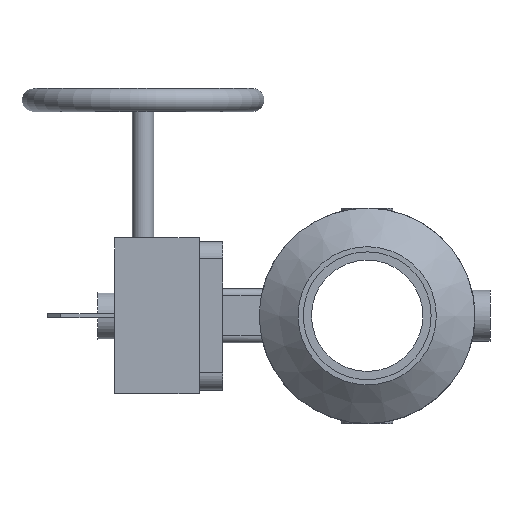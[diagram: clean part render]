
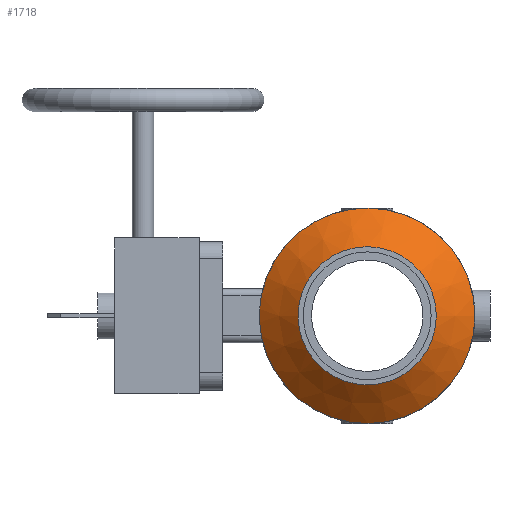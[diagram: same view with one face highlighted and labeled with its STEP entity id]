
A CAD part, left-side view. The second image highlights one B-rep face of the part: STEP entity #1718.
In plain terms, the highlighted conical face has half-angle 49.99 degrees and reference radius 41.692 mm.
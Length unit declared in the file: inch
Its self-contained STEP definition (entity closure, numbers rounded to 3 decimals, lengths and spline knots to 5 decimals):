
#43=CONICAL_SURFACE('',#1889,1.6414,0.872);
#106=CIRCLE('',#1802,2.);
#108=CIRCLE('',#1804,2.);
#151=CIRCLE('',#1885,1.28281);
#152=CIRCLE('',#1886,1.28281);
#155=CIRCLE('',#1890,2.);
#250=FACE_OUTER_BOUND('',#354,.T.);
#354=EDGE_LOOP('',(#1291,#1292,#1293,#1294,#1295,#1296,#1297));
#483=LINE('',#3087,#596);
#596=VECTOR('',#2270,1.6414);
#664=VERTEX_POINT('',#2576);
#665=VERTEX_POINT('',#2578);
#672=VERTEX_POINT('',#2619);
#747=VERTEX_POINT('',#3077);
#748=VERTEX_POINT('',#3078);
#838=EDGE_CURVE('',#664,#665,#106,.T.);
#846=EDGE_CURVE('',#672,#664,#108,.T.);
#950=EDGE_CURVE('',#747,#748,#151,.T.);
#951=EDGE_CURVE('',#748,#747,#152,.T.);
#954=EDGE_CURVE('',#665,#672,#155,.T.);
#955=EDGE_CURVE('',#664,#748,#483,.T.);
#1291=ORIENTED_EDGE('',*,*,#954,.F.);
#1292=ORIENTED_EDGE('',*,*,#838,.F.);
#1293=ORIENTED_EDGE('',*,*,#955,.T.);
#1294=ORIENTED_EDGE('',*,*,#951,.T.);
#1295=ORIENTED_EDGE('',*,*,#950,.T.);
#1296=ORIENTED_EDGE('',*,*,#955,.F.);
#1297=ORIENTED_EDGE('',*,*,#846,.F.);
#1718=ADVANCED_FACE('',(#250),#43,.T.);
#1802=AXIS2_PLACEMENT_3D('',#2579,#2050,#2051);
#1804=AXIS2_PLACEMENT_3D('',#2630,#2056,#2057);
#1885=AXIS2_PLACEMENT_3D('',#3079,#2258,#2259);
#1886=AXIS2_PLACEMENT_3D('',#3080,#2260,#2261);
#1889=AXIS2_PLACEMENT_3D('',#3085,#2266,#2267);
#1890=AXIS2_PLACEMENT_3D('',#3086,#2268,#2269);
#2050=DIRECTION('center_axis',(1.,0.,0.));
#2051=DIRECTION('ref_axis',(0.,0.,-1.));
#2056=DIRECTION('center_axis',(1.,0.,0.));
#2057=DIRECTION('ref_axis',(0.,0.,-1.));
#2258=DIRECTION('center_axis',(1.,0.,0.));
#2259=DIRECTION('ref_axis',(0.,0.,-1.));
#2260=DIRECTION('center_axis',(1.,0.,0.));
#2261=DIRECTION('ref_axis',(0.,0.,-1.));
#2266=DIRECTION('center_axis',(1.,0.,0.));
#2267=DIRECTION('ref_axis',(0.,1.,0.));
#2268=DIRECTION('center_axis',(1.,0.,0.));
#2269=DIRECTION('ref_axis',(0.,1.,0.));
#2270=DIRECTION('',(-0.643,0.766,0.));
#2576=CARTESIAN_POINT('',(-0.5,-2.,0.));
#2578=CARTESIAN_POINT('',(-0.5,1.96453,-0.375));
#2579=CARTESIAN_POINT('Origin',(-0.5,0.,0.));
#2619=CARTESIAN_POINT('',(-0.5,1.96453,0.375));
#2630=CARTESIAN_POINT('Origin',(-0.5,0.,0.));
#3077=CARTESIAN_POINT('',(-1.102,1.28281,0.));
#3078=CARTESIAN_POINT('',(-1.102,-1.28281,0.));
#3079=CARTESIAN_POINT('Origin',(-1.102,0.,0.));
#3080=CARTESIAN_POINT('Origin',(-1.102,0.,0.));
#3085=CARTESIAN_POINT('Origin',(-0.801,0.,0.));
#3086=CARTESIAN_POINT('Origin',(-0.5,0.,0.));
#3087=CARTESIAN_POINT('',(-0.801,-1.6414,0.));
